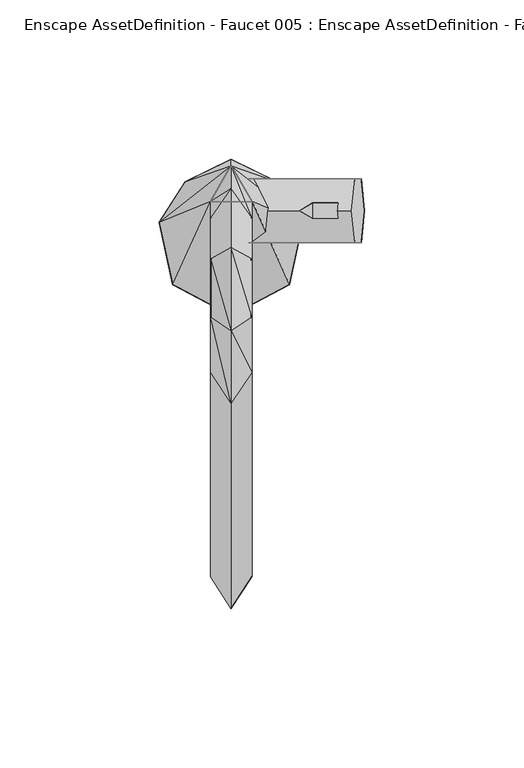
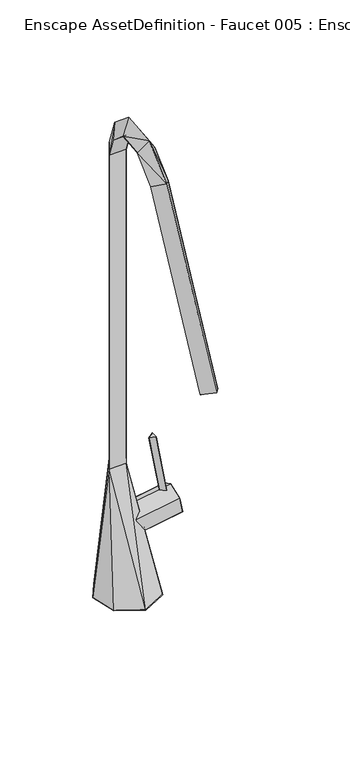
"""IFC4 building model written with IfcOpenShell, lengths in millimetres: geographic element geometry, Enscape AssetDefinition - Faucet 005 : Enscape AssetDefinition - Faucet 005."""

from ifc_helpers import new_model, si_unit, origin, place, context, project, spatial, triangles, source, transform, mapped, element, save


def enscape_assetdefinition_faucet_005_enscape_assetdefinition_79bf5e93(model_context):
    return source(origin(), model_context, "Body", "Tessellation", [
        triangles([(-6.4950001, -105.6820031, 222.0650064), (0.0, -51.2779974, 353.2879924), (6.4950001, -41.6050004, 347.4940146), (0.0, -115.7009955, 227.183008), (6.4950001, -105.6820031, 222.0650064), (-6.4950001, -41.6050004, 347.4940146), (-6.4950001, -24.1369987, 363.5750098), (0.0, -28.5310006, 373.6739937), (6.4950001, -24.1369987, 363.5750098), (-6.4950001, -5.827, 365.5230014), (0.0, -2.2750001, 376.2880056), (6.4950001, 7.0279998, 354.689978), (6.4950001, -5.827, 365.5230014), (0.0, 16.2799997, 360.9379978), (-6.4950001, 7.0279998, 354.689978), (-6.4950001, 12.1320004, 339.861014), (0.0, 23.3820008, 340.818986), (0.0, 23.3849984, 91.8930011), (6.4950001, 12.1350003, 91.8930011), (6.4950001, 12.1320004, 339.861014), (-6.4950001, 12.1350003, 91.8930011), (0.0, -23.7729993, 0.0), (18.312, -14.0549992, 0.0), (22.6179985, 5.6349997, 0.0), (-18.312, -14.0549992, 0.0), (-14.4670005, 18.3520003, 0.0), (-22.6179985, 5.6349997, 0.0), (14.4660002, 18.3520003, 0.0), (0.0, 25.3250008, 0.0), (5.5099999, -0.844, 54.9829993), (38.8710013, -0.839, 60.8689999), (7.5269996, -0.84, 43.5410015), (4.4999998, 9.2160004, 60.7070004), (38.8690028, 19.2839996, 60.8680007), (41.8959983, 9.223, 43.7059987), (40.8859991, 19.2839996, 49.4269976), (37.8609998, 9.223, 66.5889996), (5.5079998, 19.2800005, 54.9889991), (7.5259998, 19.2839996, 43.5480005), (8.5349998, 9.2240004, 37.8240017), (40.8880021, -0.839, 49.4269976), (33.6170001, 6.8790002, 63.9479998), (25.5999999, 6.8740002, 109.416995), (21.5209997, 9.2649999, 108.6980073), (33.6170001, 11.6610002, 63.9500028), (29.5379999, 9.2709997, 63.2300022), (25.5999999, 11.6560007, 109.416995)], [[47, 45, 46], [46, 44, 47], [43, 47, 44], [45, 47, 43], [43, 42, 45], [44, 46, 42], [42, 43, 44], [41, 32, 40], [35, 40, 39], [40, 35, 41], [36, 39, 38], [39, 36, 35], [38, 34, 36], [34, 38, 33], [41, 35, 37], [35, 36, 37], [36, 34, 37], [33, 37, 34], [31, 41, 37], [32, 41, 31], [31, 30, 32], [37, 33, 30], [30, 31, 37], [18, 29, 26], [18, 28, 29], [29, 28, 24], [18, 24, 28], [27, 29, 24], [27, 26, 29], [18, 26, 27], [23, 22, 24], [22, 27, 24], [22, 25, 27], [18, 19, 24], [19, 23, 24], [19, 22, 23], [21, 18, 27], [19, 21, 22], [21, 25, 22], [21, 27, 25], [16, 21, 19], [20, 19, 18], [19, 20, 16], [17, 18, 21], [21, 16, 17], [18, 17, 20], [14, 17, 16], [16, 15, 14], [15, 16, 20], [12, 20, 17], [17, 14, 12], [20, 12, 15], [13, 12, 14], [11, 14, 15], [14, 11, 13], [15, 10, 11], [12, 13, 10], [10, 15, 12], [7, 10, 13], [9, 13, 11], [13, 9, 7], [10, 7, 8], [8, 11, 10], [11, 8, 9], [2, 8, 7], [7, 6, 2], [6, 7, 9], [4, 2, 6], [6, 1, 4], [5, 4, 1], [2, 4, 5], [8, 2, 3], [3, 9, 8], [9, 3, 6], [5, 3, 2], [1, 6, 3], [3, 5, 1]], closed=False),
    ])


if __name__ == "__main__":
    model = new_model("IFC4")
    model_context = context("Model", 3, world=origin())
    ifc_project = project(units=[si_unit("LENGTHUNIT", "METRE", prefix="MILLI")], contexts=[model_context])
    site = spatial("IfcSite", under=ifc_project)
    building = spatial("IfcBuilding", under=site)
    placement = place(None, origin())
    enscape_assetdefinition_faucet_005_enscape_assetdefinition_shape = enscape_assetdefinition_faucet_005_enscape_assetdefinition_79bf5e93(model_context)
    element("IfcGeographicElement", 1, ObjectType="Enscape AssetDefinition - Faucet 005 : Enscape AssetDefinition - Faucet 005", at=placement, inside=building, context=model_context, shape_type="MappedRepresentation", body=[
        mapped(enscape_assetdefinition_faucet_005_enscape_assetdefinition_shape, transform((0.0, 0.0, 0.0), x_axis=(1.0, 0.0, 0.0), y_axis=(0.0, 1.0, 0.0), z_axis=(0.0, 0.0, 1.0))),
    ])
    save(model, "model.ifc")
